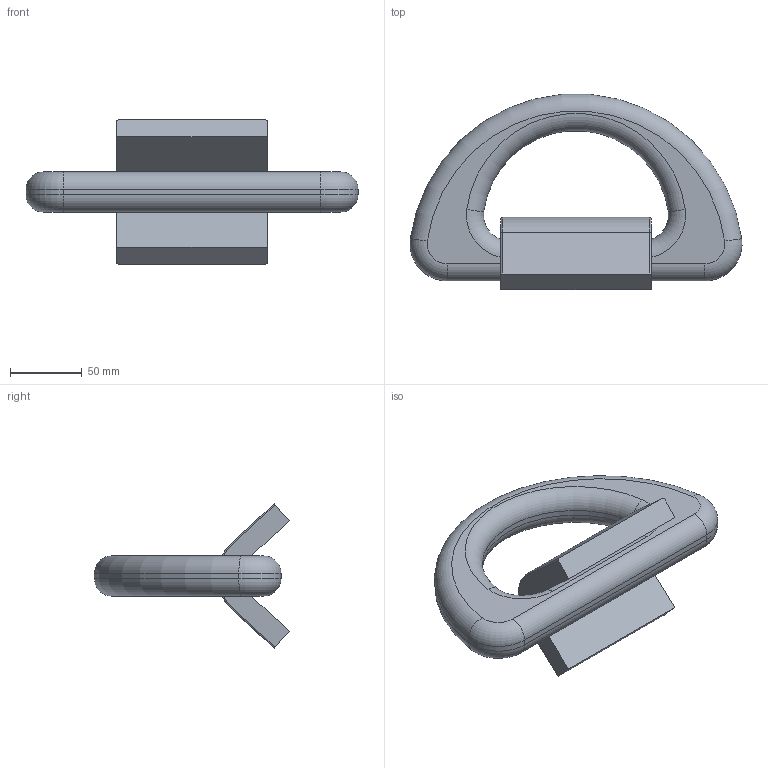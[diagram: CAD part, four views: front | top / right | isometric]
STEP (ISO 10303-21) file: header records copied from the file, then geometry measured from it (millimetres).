
FILE_DESCRIPTION(/* description */ (''),/* implementation_level */ '2;1');
FILE_NAME(/* name */ 'O:\ils2000\Natallia\INVENTOR\AutoCAD stp\LP-67.stp',/* time_stamp */ '2018-06-07T17:03:42+02:00',/* author */ ('jori'),/* organization */ (''),/* preprocessor_version */ 'ST-DEVELOPER v16.5',/* originating_system */ 'Autodesk Inventor 2017',/* authorisation */ '');
FILE_SCHEMA (('AUTOMOTIVE_DESIGN { 1 0 10303 214 3 1 1 }'));
Length unit declared in the file: millimetre
Products named in the file (1): LP-67
Bounding box: 231.96 x 136.38 x 100.67 mm (x, y, z)
Volume: 598847 mm3; surface area: 81497.1 mm2
Topology: 2 solids, 2 shells, 42 faces, 94 edges, 56 vertices
Faces by surface type: cylinder 16, torus 14, plane 12
Entity records: 1205 total; most frequent: DIRECTION 234, CARTESIAN_POINT 193, ORIENTED_EDGE 188, AXIS2_PLACEMENT_3D 97, EDGE_CURVE 94, VERTEX_POINT 56, CIRCLE 54, EDGE_LOOP 44
